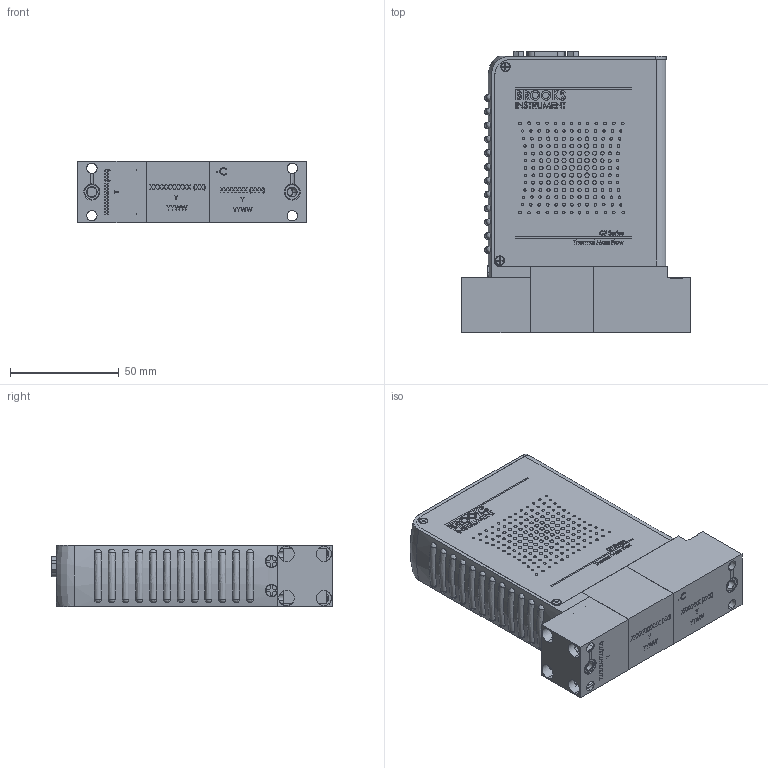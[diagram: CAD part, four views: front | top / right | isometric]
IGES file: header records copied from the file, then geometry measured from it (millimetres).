
Start section: SolidWorks IGES file using analytic representation for surfaces
Global section: file name: G:\Engineering\CAD MODELS FOR SALES\CAD MODEL STORAGE\GF\GF125\CUSTOMER FILES\IGES\GF100-GF120-GF125-CX-G1.IGS; native system: SolidWorks 2020; preprocessor: SolidWorks 2020; author: CFehr; date: 220830.081529; units: inch
Bounding box: 104.95 x 129.41 x 28.46 mm (x, y, z)
Volume: 60224 mm3; surface area: 79053.8 mm2
Topology: 65 solids, 65 shells, 3004 faces, 7634 edges, 5005 vertices
Faces by surface type: plane 1876, revolution 839, bspline 289
